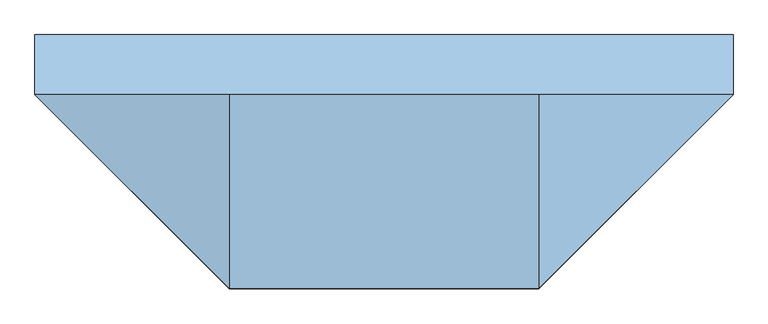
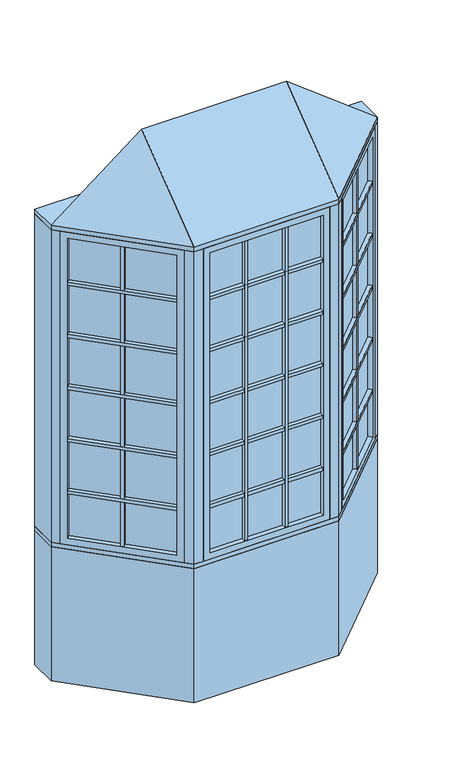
"""IFC4 building model written with IfcOpenShell, lengths in millimetres: window geometry, Pollard_Windows_Tudor Casement Bows and Bays : AML-BAY 45 AFR0518-08-600_GC."""

import ifcopenshell
import ifcopenshell.guid

model = None  # the IFC model being written
_history = None  # IfcOwnerHistory: only IFC2X3 demands one
_inside = {}  # id of a spatial element -> (the spatial element, [elements in it])
_under = {}  # id of a project, library or spatial element -> (it, [spatial elements below it])
_declared = {}  # id of a project -> (the project, [libraries it declares])
_typed = {}  # id of a type object -> (the type object, [elements of that type])
_made_of = {}  # id of a material, layer set ... -> (it, [elements and type objects made of it])


def new_model(schema):
    """Start an empty IFC model of exactly this schema.

    Asked for "IFC4X3", IfcOpenShell would pick the latest addendum, in which some entities
    have other attributes; the version numbers below select the first issue.
    IFC2X3 requires an IfcOwnerHistory on every rooted entity: one is made here for all.
    """
    global model, _history
    if schema == "IFC4X3":
        model = ifcopenshell.file(schema_version=(4, 3, 0, 0))
    else:
        model = ifcopenshell.file(schema=schema)
    _inside.clear()
    _under.clear()
    _declared.clear()
    _typed.clear()
    _made_of.clear()
    _history = None
    if model.schema == "IFC2X3":
        org = make("IfcOrganization", Name="unknown")
        user = make(
            "IfcPersonAndOrganization",
            ThePerson=make("IfcPerson", FamilyName="unknown"),
            TheOrganization=org,
        )
        app = make(
            "IfcApplication",
            ApplicationDeveloper=org,
            Version="unknown",
            ApplicationFullName="unknown",
            ApplicationIdentifier="unknown",
        )
        _history = make(
            "IfcOwnerHistory",
            OwningUser=user,
            OwningApplication=app,
            ChangeAction="ADDED",
            CreationDate=0,
        )
    return model


def make(cls, **values):
    """One entity of the class cls with the attributes given. An attribute that is None is left unset."""
    return model.create_entity(
        cls, **{name: value for name, value in values.items() if value is not None}
    )


def rooted(cls, **values):
    """An entity with a GlobalId (a new one), such as an element, a storey or a relation."""
    return make(cls, GlobalId=ifcopenshell.guid.new(), OwnerHistory=_history, **values)


def si_unit(unit_type, name, prefix=None):
    """IfcSIUnit, for example si_unit("LENGTHUNIT", "METRE", prefix="MILLI")."""
    return make("IfcSIUnit", UnitType=unit_type, Prefix=prefix, Name=name)


def assignment(units):
    """IfcUnitAssignment: the units of a project."""
    return None if units is None else make("IfcUnitAssignment", Units=units)


def point(xyz):
    """IfcCartesianPoint."""
    return None if xyz is None else make("IfcCartesianPoint", Coordinates=xyz)


def direction(xyz):
    """IfcDirection."""
    return None if xyz is None else make("IfcDirection", DirectionRatios=xyz)


def frame(location, z_axis=None, x_axis=None):
    """IfcAxis2Placement3D, a coordinate frame: its origin and axes. An axis left out is left unset."""
    return make(
        "IfcAxis2Placement3D",
        Location=point(location),
        Axis=direction(z_axis),
        RefDirection=direction(x_axis),
    )


def origin():
    """The frame at (0, 0, 0) with its axes left unset."""
    return frame((0.0, 0.0, 0.0))


def origin_with_axes():
    """The frame at (0, 0, 0) with the z axis (0, 0, 1) and the x axis (1, 0, 0) written out."""
    return frame((0.0, 0.0, 0.0), z_axis=(0.0, 0.0, 1.0), x_axis=(1.0, 0.0, 0.0))


def place(relative_to, where):
    """IfcLocalPlacement: puts the frame where relative to a parent placement (None: the world)."""
    return make(
        "IfcLocalPlacement", PlacementRelTo=relative_to, RelativePlacement=where
    )


def context(
    kind, dimensions, precision=None, world=None, true_north=None, identifier=None
):
    """IfcGeometricRepresentationContext, for example the 3D "Model" context."""
    return make(
        "IfcGeometricRepresentationContext",
        ContextIdentifier=identifier,
        ContextType=kind,
        CoordinateSpaceDimension=dimensions,
        Precision=precision,
        WorldCoordinateSystem=world,
        TrueNorth=true_north,
    )


def project(units=None, contexts=None):
    """IfcProject with its units and contexts."""
    return rooted(
        "IfcProject",
        Name="project",
        RepresentationContexts=contexts,
        UnitsInContext=assignment(units),
    )


def spatial(cls, under=None, at=None, **own):
    """A site, building, storey or space (cls), placed at a placement, below another one or the project."""
    s = rooted(cls, ObjectPlacement=at, **own)
    if under is not None:
        _under.setdefault(under.id(), (under, []))[1].append(s)
    return s


def polyline(points):
    """IfcPolyline through the points."""
    return make("IfcPolyline", Points=[point(p) for p in points])


def outline(outer, holes=None, kind="AREA"):
    """IfcArbitraryClosedProfileDef: a profile drawn as a closed curve; with holes, ...WithVoids."""
    if holes is None:
        return make("IfcArbitraryClosedProfileDef", ProfileType=kind, OuterCurve=outer)
    return make(
        "IfcArbitraryProfileDefWithVoids",
        ProfileType=kind,
        OuterCurve=outer,
        InnerCurves=holes,
    )


def extrude(swept, where, along, depth):
    """IfcExtrudedAreaSolid: the profile swept, set in the frame where, extruded along a direction by depth."""
    return make(
        "IfcExtrudedAreaSolid",
        SweptArea=swept,
        Position=where,
        ExtrudedDirection=direction(along),
        Depth=depth,
    )


def faces_of(points, faces, orient=None, outer=None):
    """IfcFace entities. A face is a list of loops; a loop is a list of indices into points, from 0.

    orient and outer hold one flag for each loop. By default every Orientation is true, the
    first loop of a face is its IfcFaceOuterBound and the others are IfcFaceBound.
    """
    made = []
    for i, loops in enumerate(faces):
        bounds = []
        for j, loop in enumerate(loops):
            is_outer = j == 0 if outer is None else outer[i][j]
            bounds.append(
                make(
                    "IfcFaceOuterBound" if is_outer else "IfcFaceBound",
                    Bound=make("IfcPolyLoop", Polygon=[points[k] for k in loop]),
                    Orientation=True if orient is None else orient[i][j],
                )
            )
        made.append(make("IfcFace", Bounds=bounds))
    return made


def faceted_brep(points, faces, orient=None, outer=None, voids=None):
    """IfcFacetedBrep: a solid bounded by flat faces; with voids (closed shells), ...WithVoids."""
    shared = [point(p) for p in points]
    hull = make("IfcClosedShell", CfsFaces=faces_of(shared, faces, orient, outer))
    if voids is None:
        return make("IfcFacetedBrep", Outer=hull)
    return make(
        "IfcFacetedBrepWithVoids",
        Outer=hull,
        Voids=[
            make(cls, CfsFaces=faces_of(shared, fs, o, b)) for cls, fs, o, b in voids
        ],
    )


def shape(context_of_items, identifier, shape_type, items):
    """IfcShapeRepresentation: the items that make up one representation, for example the "Body"."""
    return make(
        "IfcShapeRepresentation",
        ContextOfItems=context_of_items,
        RepresentationIdentifier=identifier,
        RepresentationType=shape_type,
        Items=items,
    )


def source(mapping_origin, context_of_items, identifier, shape_type, items):
    """IfcRepresentationMap: a shape defined once, which mapped items show again and again."""
    return make(
        "IfcRepresentationMap",
        MappingOrigin=mapping_origin,
        MappedRepresentation=shape(context_of_items, identifier, shape_type, items),
    )


def transform(
    local_origin,
    x_axis=None,
    y_axis=None,
    z_axis=None,
    scale=None,
    scale2=None,
    scale3=None,
    uniform=True,
):
    """IfcCartesianTransformationOperator3D, or its non-uniform kind. x_axis, y_axis, z_axis: its Axis1, 2, 3."""
    if uniform:
        return make(
            "IfcCartesianTransformationOperator3D",
            Axis1=direction(x_axis),
            Axis2=direction(y_axis),
            LocalOrigin=point(local_origin),
            Scale=scale,
            Axis3=direction(z_axis),
        )
    return make(
        "IfcCartesianTransformationOperator3DnonUniform",
        Axis1=direction(x_axis),
        Axis2=direction(y_axis),
        LocalOrigin=point(local_origin),
        Scale=scale,
        Axis3=direction(z_axis),
        Scale2=scale2,
        Scale3=scale3,
    )


def mapped(mapping_source, mapping_target):
    """IfcMappedItem: shows the shape of a source again, moved by a transform."""
    return make(
        "IfcMappedItem", MappingSource=mapping_source, MappingTarget=mapping_target
    )


def made_of(thing, what):
    """Note that an element or type object is made of a material, layer set ...; save() writes the relation."""
    if what is not None:
        _made_of.setdefault(what.id(), (what, []))[1].append(thing)
    return thing


def element(
    cls,
    number,
    at=None,
    inside=None,
    cuts=None,
    type_object=None,
    material=None,
    context=None,
    identifier="Body",
    shape_type=None,
    held_by="IfcProductDefinitionShape",
    body=None,
    shapes=None,
    **own,
):
    """One element of the class cls, such as IfcWall. Its Tag is "e" and its number.

    at: its placement. inside: the storey or other place that contains it. cuts: it is an
    opening in that element (IfcRelVoidsElement). A single representation is given by context,
    identifier, shape_type and body (its items); several are given by shapes. held_by: the class
    of the entity that holds the representations. save() writes the other relations.
    """
    e = rooted(cls, Tag="e%d" % number, ObjectPlacement=at, **own)
    if body is not None:
        shapes = [shape(context, identifier, shape_type, body)]
    if shapes is not None:
        e.Representation = make(held_by, Representations=shapes)
    if inside is not None:
        _inside.setdefault(inside.id(), (inside, []))[1].append(e)
    if cuts is not None:
        rooted(
            "IfcRelVoidsElement", RelatingBuildingElement=cuts, RelatedOpeningElement=e
        )
    if type_object is not None:
        _typed.setdefault(type_object.id(), (type_object, []))[1].append(e)
    return made_of(e, material)


def aggregate(whole, parts):
    """IfcRelAggregates: a whole, such as a stair, and the parts it consists of."""
    return rooted("IfcRelAggregates", RelatingObject=whole, RelatedObjects=parts)


def save(model, path):
    """Write the relations noted so far, then the file.

    IfcRelAggregates (storeys below a building ...), IfcRelContainedInSpatialStructure (elements
    in a storey), IfcRelDefinesByType, IfcRelAssociatesMaterial and IfcRelDeclares: one each for
    every whole, place, type object, material and project.
    """
    for whole, parts in _under.values():
        aggregate(whole, parts)
    for where, things in _inside.values():
        rooted(
            "IfcRelContainedInSpatialStructure",
            RelatedElements=things,
            RelatingStructure=where,
        )
    for kind, things in _typed.values():
        rooted("IfcRelDefinesByType", RelatedObjects=things, RelatingType=kind)
    for what, things in _made_of.values():
        rooted("IfcRelAssociatesMaterial", RelatedObjects=things, RelatingMaterial=what)
    for by, libraries in _declared.values():
        rooted("IfcRelDeclares", RelatingContext=by, RelatedDefinitions=libraries)
    model.write(path)


def window_82c581ba(model_context):
    return source(origin(), model_context, "Body", "SolidModel", [
        extrude(outline(polyline([(453.0114193, -506.9608753), (437.4550701, -491.4045261), (815.116171, -113.7434252), (830.6725202, -129.2997743), (453.0114193, -506.9608753)])), frame((0.0, 0.0, 1690.998), z_axis=(0.0, 0.0, 1.0), x_axis=(1.0, 0.0, 0.0)), (0.0, 0.0, 1.0), 18.0),
        extrude(outline(polyline([(433.8629677, -487.8124236), (418.3066185, -472.2560744), (795.9677194, -94.5949735), (811.5240686, -110.1513227), (433.8629677, -487.8124236)])), frame((0.0, 0.0, 1690.998), z_axis=(0.0, 0.0, 1.0), x_axis=(1.0, 0.0, 0.0)), (0.0, 0.0, 1.0), 18.0),
        extrude(outline(polyline([(453.0114193, -506.9608753), (437.4550701, -491.4045261), (815.116171, -113.7434252), (830.6725202, -129.2997743), (453.0114193, -506.9608753)])), frame((0.0, 0.0, 1090.998), z_axis=(0.0, 0.0, 1.0), x_axis=(1.0, 0.0, 0.0)), (0.0, 0.0, 1.0), 18.0),
        extrude(outline(polyline([(433.8629677, -487.8124236), (418.3066185, -472.2560744), (795.9677194, -94.5949735), (811.5240686, -110.1513227), (433.8629677, -487.8124236)])), frame((0.0, 0.0, 1090.998), z_axis=(0.0, 0.0, 1.0), x_axis=(1.0, 0.0, 0.0)), (0.0, 0.0, 1.0), 18.0),
        extrude(outline(polyline([(453.0114193, -506.9608753), (437.4550701, -491.4045261), (815.116171, -113.7434252), (830.6725202, -129.2997743), (453.0114193, -506.9608753)])), frame((0.0, 0.0, 1390.998), z_axis=(0.0, 0.0, 1.0), x_axis=(1.0, 0.0, 0.0)), (0.0, 0.0, 1.0), 18.0),
        extrude(outline(polyline([(433.8629677, -487.8124236), (418.3066185, -472.2560744), (795.9677194, -94.5949735), (811.5240686, -110.1513227), (433.8629677, -487.8124236)])), frame((0.0, 0.0, 1390.998), z_axis=(0.0, 0.0, 1.0), x_axis=(1.0, 0.0, 0.0)), (0.0, 0.0, 1.0), 18.0),
        extrude(outline(polyline([(453.0114193, -506.9608753), (437.4550701, -491.4045261), (815.116171, -113.7434252), (830.6725202, -129.2997743), (453.0114193, -506.9608753)])), frame((0.0, 0.0, 1990.998), z_axis=(0.0, 0.0, 1.0), x_axis=(1.0, 0.0, 0.0)), (0.0, 0.0, 1.0), 18.0),
        extrude(outline(polyline([(433.8629677, -487.8124236), (418.3066185, -472.2560744), (795.9677194, -94.5949735), (811.5240686, -110.1513227), (433.8629677, -487.8124236)])), frame((0.0, 0.0, 1990.998), z_axis=(0.0, 0.0, 1.0), x_axis=(1.0, 0.0, 0.0)), (0.0, 0.0, 1.0), 18.0),
        extrude(outline(polyline([(453.0114193, -506.9608753), (437.4550701, -491.4045261), (815.116171, -113.7434252), (830.6725202, -129.2997743), (453.0114193, -506.9608753)])), frame((0.0, 0.0, 2290.998), z_axis=(0.0, 0.0, 1.0), x_axis=(1.0, 0.0, 0.0)), (0.0, 0.0, 1.0), 18.0),
        extrude(outline(polyline([(433.8629677, -487.8124236), (418.3066185, -472.2560744), (795.9677194, -94.5949735), (811.5240686, -110.1513227), (433.8629677, -487.8124236)])), frame((0.0, 0.0, 2290.998), z_axis=(0.0, 0.0, 1.0), x_axis=(1.0, 0.0, 0.0)), (0.0, 0.0, 1.0), 18.0),
        extrude(outline(polyline([(632.6495816, -296.2100146), (648.2059308, -311.7663638), (635.4780087, -324.4942858), (619.9216595, -308.9379366), (632.6495816, -296.2100146)])), frame((0.0, 0.0, 835.8628), z_axis=(0.0, 0.0, 1.0), x_axis=(1.0, 0.0, 0.0)), (0.0, 0.0, 1.0), 1728.2704),
        extrude(outline(polyline([(629.0574791, -292.6179121), (616.3295571, -305.3458342), (600.7732079, -289.789485), (613.50113, -277.0615629), (629.0574791, -292.6179121)])), frame((0.0, 0.0, 835.8628), z_axis=(0.0, 0.0, 1.0), x_axis=(1.0, 0.0, 0.0)), (0.0, 0.0, 1.0), 1728.2704),
        extrude(outline(polyline([(824.0964271, -104.763169), (428.474814, -500.3847822), (424.8827115, -496.7926797), (820.5043247, -101.1710666), (824.0964271, -104.763169)])), frame((0.0, 0.0, 823.1628), z_axis=(0.0, 0.0, 1.0), x_axis=(1.0, 0.0, 0.0)), (0.0, 0.0, 1.0), 1753.6704),
        faceted_brep([(815.116171, -113.7434252, 835.8628), (833.0766833, -131.7039374, 835.8628), (833.0766833, -131.7039374, 2564.1332), (815.116171, -113.7434252, 2564.1332), (820.5043247, -101.1710666, 823.1628), (824.0964271, -104.763169, 823.1628), (824.0964271, -104.763169, 2576.8332), (820.5043247, -101.1710666, 2576.8332), (793.5635563, -92.1908105, 835.8628), (811.5240686, -110.1513227, 835.8628), (811.5240686, -110.1513227, 2564.1332), (793.5635563, -92.1908105, 2564.1332), (858.4369265, -106.3436941, 799.998), (818.9237996, -66.8305672, 799.998), (818.9237996, -66.8305672, 2599.998), (858.4369265, -106.3436941, 2599.998), (455.4155823, -509.3650383, 2564.1332), (437.4550701, -491.4045261, 2564.1332), (428.474814, -500.3847822, 2576.8332), (424.8827115, -496.7926797, 2576.8332), (433.8629677, -487.8124236, 2564.1332), (415.9024554, -469.8519114, 2564.1332), (390.5422121, -495.2121547, 2599.998), (430.0553391, -534.7252816, 2599.998), (455.4155823, -509.3650383, 835.8628), (437.4550701, -491.4045261, 835.8628), (428.474814, -500.3847822, 823.1628), (424.8827115, -496.7926797, 823.1628), (433.8629677, -487.8124236, 835.8628), (415.9024554, -469.8519114, 835.8628), (390.5422121, -495.2121547, 799.998), (430.0553391, -534.7252816, 799.998)], [[[0, 1, 2, 3]], [[4, 5, 6, 7]], [[8, 9, 10, 11]], [[12, 13, 14, 15]], [[3, 2, 16, 17]], [[7, 6, 18, 19]], [[11, 10, 20, 21]], [[15, 14, 22, 23]], [[17, 16, 24, 25]], [[19, 18, 26, 27]], [[21, 20, 28, 29]], [[23, 22, 30, 31]], [[25, 24, 1, 0]], [[5, 26, 18, 6], [3, 17, 25, 0]], [[27, 26, 5, 4]], [[7, 19, 27, 4], [9, 28, 20, 10]], [[29, 28, 9, 8]], [[13, 30, 22, 14], [11, 21, 29, 8]], [[31, 30, 13, 12]], [[15, 23, 31, 12], [1, 24, 16, 2]]]),
        extrude(outline(polyline([(119.1785333, -544.6806207), (119.1785333, -566.6806207), (101.1785333, -566.6806207), (101.1785333, -544.6806207), (119.1785333, -544.6806207)])), frame((0.0, 0.0, 835.8628), z_axis=(0.0, 0.0, 1.0), x_axis=(1.0, 0.0, 0.0)), (0.0, 0.0, 1.0), 1728.2704),
        extrude(outline(polyline([(119.1785333, -539.6006207), (101.1785333, -539.6006207), (101.1785333, -517.6006207), (119.1785333, -517.6006207), (119.1785333, -539.6006207)])), frame((0.0, 0.0, 835.8628), z_axis=(0.0, 0.0, 1.0), x_axis=(1.0, 0.0, 0.0)), (0.0, 0.0, 1.0), 1728.2704),
        extrude(outline(polyline([(-101.1785333, -544.6806207), (-101.1785333, -566.6806207), (-119.1785333, -566.6806207), (-119.1785333, -544.6806207), (-101.1785333, -544.6806207)])), frame((0.0, 0.0, 835.8628), z_axis=(0.0, 0.0, 1.0), x_axis=(1.0, 0.0, 0.0)), (0.0, 0.0, 1.0), 1728.2704),
        extrude(outline(polyline([(-101.1785333, -539.6006207), (-119.1785333, -539.6006207), (-119.1785333, -517.6006207), (-101.1785333, -517.6006207), (-101.1785333, -539.6006207)])), frame((0.0, 0.0, 835.8628), z_axis=(0.0, 0.0, 1.0), x_axis=(1.0, 0.0, 0.0)), (0.0, 0.0, 1.0), 1728.2704),
        extrude(outline(polyline([(-308.8352, -566.6806207), (-308.8352, -544.6806207), (308.8352, -544.6806207), (308.8352, -566.6806207), (-308.8352, -566.6806207)])), frame((0.0, 0.0, 1090.998), z_axis=(0.0, 0.0, 1.0), x_axis=(1.0, 0.0, 0.0)), (0.0, 0.0, 1.0), 18.0),
        extrude(outline(polyline([(-308.8352, -539.6006207), (-308.8352, -517.6006207), (308.8352, -517.6006207), (308.8352, -539.6006207), (-308.8352, -539.6006207)])), frame((0.0, 0.0, 1090.998), z_axis=(0.0, 0.0, 1.0), x_axis=(1.0, 0.0, 0.0)), (0.0, 0.0, 1.0), 18.0),
        extrude(outline(polyline([(-308.8352, -566.6806207), (-308.8352, -544.6806207), (308.8352, -544.6806207), (308.8352, -566.6806207), (-308.8352, -566.6806207)])), frame((0.0, 0.0, 1390.998), z_axis=(0.0, 0.0, 1.0), x_axis=(1.0, 0.0, 0.0)), (0.0, 0.0, 1.0), 18.0),
        extrude(outline(polyline([(-308.8352, -539.6006207), (-308.8352, -517.6006207), (308.8352, -517.6006207), (308.8352, -539.6006207), (-308.8352, -539.6006207)])), frame((0.0, 0.0, 1390.998), z_axis=(0.0, 0.0, 1.0), x_axis=(1.0, 0.0, 0.0)), (0.0, 0.0, 1.0), 18.0),
        extrude(outline(polyline([(-308.8352, -566.6806207), (-308.8352, -544.6806207), (308.8352, -544.6806207), (308.8352, -566.6806207), (-308.8352, -566.6806207)])), frame((0.0, 0.0, 1690.998), z_axis=(0.0, 0.0, 1.0), x_axis=(1.0, 0.0, 0.0)), (0.0, 0.0, 1.0), 18.0),
        extrude(outline(polyline([(-308.8352, -539.6006207), (-308.8352, -517.6006207), (308.8352, -517.6006207), (308.8352, -539.6006207), (-308.8352, -539.6006207)])), frame((0.0, 0.0, 1690.998), z_axis=(0.0, 0.0, 1.0), x_axis=(1.0, 0.0, 0.0)), (0.0, 0.0, 1.0), 18.0),
        extrude(outline(polyline([(-308.8352, -566.6806207), (-308.8352, -544.6806207), (308.8352, -544.6806207), (308.8352, -566.6806207), (-308.8352, -566.6806207)])), frame((0.0, 0.0, 1990.998), z_axis=(0.0, 0.0, 1.0), x_axis=(1.0, 0.0, 0.0)), (0.0, 0.0, 1.0), 18.0),
        extrude(outline(polyline([(-308.8352, -539.6006207), (-308.8352, -517.6006207), (308.8352, -517.6006207), (308.8352, -539.6006207), (-308.8352, -539.6006207)])), frame((0.0, 0.0, 1990.998), z_axis=(0.0, 0.0, 1.0), x_axis=(1.0, 0.0, 0.0)), (0.0, 0.0, 1.0), 18.0),
        extrude(outline(polyline([(-830.6725202, -129.2997743), (-815.116171, -113.7434252), (-437.4550701, -491.4045261), (-453.0114193, -506.9608753), (-830.6725202, -129.2997743)])), frame((0.0, 0.0, 1090.998), z_axis=(0.0, 0.0, 1.0), x_axis=(1.0, 0.0, 0.0)), (0.0, 0.0, 1.0), 18.0),
        extrude(outline(polyline([(-811.5240686, -110.1513227), (-795.9677194, -94.5949735), (-418.3066185, -472.2560744), (-433.8629677, -487.8124236), (-811.5240686, -110.1513227)])), frame((0.0, 0.0, 1090.998), z_axis=(0.0, 0.0, 1.0), x_axis=(1.0, 0.0, 0.0)), (0.0, 0.0, 1.0), 18.0),
        extrude(outline(polyline([(-830.6725202, -129.2997743), (-815.116171, -113.7434252), (-437.4550701, -491.4045261), (-453.0114193, -506.9608753), (-830.6725202, -129.2997743)])), frame((0.0, 0.0, 1390.998), z_axis=(0.0, 0.0, 1.0), x_axis=(1.0, 0.0, 0.0)), (0.0, 0.0, 1.0), 18.0),
        extrude(outline(polyline([(-811.5240686, -110.1513227), (-795.9677194, -94.5949735), (-418.3066185, -472.2560744), (-433.8629677, -487.8124236), (-811.5240686, -110.1513227)])), frame((0.0, 0.0, 1390.998), z_axis=(0.0, 0.0, 1.0), x_axis=(1.0, 0.0, 0.0)), (0.0, 0.0, 1.0), 18.0),
        extrude(outline(polyline([(-830.6725202, -129.2997743), (-815.116171, -113.7434252), (-437.4550701, -491.4045261), (-453.0114193, -506.9608753), (-830.6725202, -129.2997743)])), frame((0.0, 0.0, 1690.998), z_axis=(0.0, 0.0, 1.0), x_axis=(1.0, 0.0, 0.0)), (0.0, 0.0, 1.0), 18.0),
        extrude(outline(polyline([(-811.5240686, -110.1513227), (-795.9677194, -94.5949735), (-418.3066185, -472.2560744), (-433.8629677, -487.8124236), (-811.5240686, -110.1513227)])), frame((0.0, 0.0, 1690.998), z_axis=(0.0, 0.0, 1.0), x_axis=(1.0, 0.0, 0.0)), (0.0, 0.0, 1.0), 18.0),
        extrude(outline(polyline([(-830.6725202, -129.2997743), (-815.116171, -113.7434252), (-437.4550701, -491.4045261), (-453.0114193, -506.9608753), (-830.6725202, -129.2997743)])), frame((0.0, 0.0, 1990.998), z_axis=(0.0, 0.0, 1.0), x_axis=(1.0, 0.0, 0.0)), (0.0, 0.0, 1.0), 18.0),
        extrude(outline(polyline([(-811.5240686, -110.1513227), (-795.9677194, -94.5949735), (-418.3066185, -472.2560744), (-433.8629677, -487.8124236), (-811.5240686, -110.1513227)])), frame((0.0, 0.0, 1990.998), z_axis=(0.0, 0.0, 1.0), x_axis=(1.0, 0.0, 0.0)), (0.0, 0.0, 1.0), 18.0),
        extrude(outline(polyline([(-830.6725202, -129.2997743), (-815.116171, -113.7434252), (-437.4550701, -491.4045261), (-453.0114193, -506.9608753), (-830.6725202, -129.2997743)])), frame((0.0, 0.0, 2290.998), z_axis=(0.0, 0.0, 1.0), x_axis=(1.0, 0.0, 0.0)), (0.0, 0.0, 1.0), 18.0),
        extrude(outline(polyline([(-811.5240686, -110.1513227), (-795.9677194, -94.5949735), (-418.3066185, -472.2560744), (-433.8629677, -487.8124236), (-811.5240686, -110.1513227)])), frame((0.0, 0.0, 2290.998), z_axis=(0.0, 0.0, 1.0), x_axis=(1.0, 0.0, 0.0)), (0.0, 0.0, 1.0), 18.0),
        extrude(outline(polyline([(-308.8352, -566.6806207), (-308.8352, -544.6806207), (308.8352, -544.6806207), (308.8352, -566.6806207), (-308.8352, -566.6806207)])), frame((0.0, 0.0, 2290.998), z_axis=(0.0, 0.0, 1.0), x_axis=(1.0, 0.0, 0.0)), (0.0, 0.0, 1.0), 18.0),
        extrude(outline(polyline([(-308.8352, -539.6006207), (-308.8352, -517.6006207), (308.8352, -517.6006207), (308.8352, -539.6006207), (-308.8352, -539.6006207)])), frame((0.0, 0.0, 2290.998), z_axis=(0.0, 0.0, 1.0), x_axis=(1.0, 0.0, 0.0)), (0.0, 0.0, 1.0), 18.0),
        extrude(outline(polyline([(-619.9216595, -308.9379366), (-635.4780087, -324.4942858), (-648.2059308, -311.7663638), (-632.6495816, -296.2100146), (-619.9216595, -308.9379366)])), frame((0.0, 0.0, 835.8628), z_axis=(0.0, 0.0, 1.0), x_axis=(1.0, 0.0, 0.0)), (0.0, 0.0, 1.0), 1728.2704),
        extrude(outline(polyline([(-616.3295571, -305.3458342), (-629.0574791, -292.6179121), (-613.50113, -277.0615629), (-600.7732079, -289.789485), (-616.3295571, -305.3458342)])), frame((0.0, 0.0, 835.8628), z_axis=(0.0, 0.0, 1.0), x_axis=(1.0, 0.0, 0.0)), (0.0, 0.0, 1.0), 1728.2704),
        extrude(outline(polyline([(-428.474814, -500.3847822), (-824.0964271, -104.763169), (-820.5043247, -101.1710666), (-424.8827115, -496.7926797), (-428.474814, -500.3847822)])), frame((0.0, 0.0, 823.1628), z_axis=(0.0, 0.0, 1.0), x_axis=(1.0, 0.0, 0.0)), (0.0, 0.0, 1.0), 1753.6704),
        faceted_brep([(-433.8629677, -487.8124236, 2564.1332), (-415.9024554, -469.8519114, 2564.1332), (-415.9024554, -469.8519114, 835.8628), (-433.8629677, -487.8124236, 835.8628), (-428.474814, -500.3847822, 2576.8332), (-424.8827115, -496.7926797, 2576.8332), (-424.8827115, -496.7926797, 823.1628), (-428.474814, -500.3847822, 823.1628), (-455.4155823, -509.3650383, 2564.1332), (-437.4550701, -491.4045261, 2564.1332), (-437.4550701, -491.4045261, 835.8628), (-455.4155823, -509.3650383, 835.8628), (-390.5422121, -495.2121547, 2599.998), (-430.0553391, -534.7252816, 2599.998), (-430.0553391, -534.7252816, 799.998), (-390.5422121, -495.2121547, 799.998), (-793.5635563, -92.1908105, 835.8628), (-811.5240686, -110.1513227, 835.8628), (-820.5043247, -101.1710666, 823.1628), (-824.0964271, -104.763169, 823.1628), (-815.116171, -113.7434252, 835.8628), (-833.0766833, -131.7039374, 835.8628), (-858.4369265, -106.3436941, 799.998), (-818.9237996, -66.8305672, 799.998), (-793.5635563, -92.1908105, 2564.1332), (-811.5240686, -110.1513227, 2564.1332), (-820.5043247, -101.1710666, 2576.8332), (-824.0964271, -104.763169, 2576.8332), (-815.116171, -113.7434252, 2564.1332), (-833.0766833, -131.7039374, 2564.1332), (-858.4369265, -106.3436941, 2599.998), (-818.9237996, -66.8305672, 2599.998)], [[[0, 1, 2, 3]], [[4, 5, 6, 7]], [[8, 9, 10, 11]], [[12, 13, 14, 15]], [[3, 2, 16, 17]], [[7, 6, 18, 19]], [[11, 10, 20, 21]], [[15, 14, 22, 23]], [[17, 16, 24, 25]], [[19, 18, 26, 27]], [[21, 20, 28, 29]], [[23, 22, 30, 31]], [[15, 23, 31, 12], [1, 24, 16, 2]], [[25, 24, 1, 0]], [[5, 26, 18, 6], [3, 17, 25, 0]], [[27, 26, 5, 4]], [[7, 19, 27, 4], [9, 28, 20, 10]], [[29, 28, 9, 8]], [[13, 30, 22, 14], [11, 21, 29, 8]], [[31, 30, 13, 12]]]),
        extrude(outline(polyline([(321.5352, -544.6806207), (-321.5352, -544.6806207), (-321.5352, -539.6006207), (321.5352, -539.6006207), (321.5352, -544.6806207)])), frame((0.0, 0.0, 823.1628), z_axis=(0.0, 0.0, 1.0), x_axis=(1.0, 0.0, 0.0)), (0.0, 0.0, 1.0), 1753.6704),
        faceted_brep([(308.8352, -544.6806207, 835.8628), (308.8352, -570.0806207, 835.8628), (308.8352, -570.0806207, 2564.1332), (308.8352, -544.6806207, 2564.1332), (321.5352, -539.6006207, 823.1628), (321.5352, -544.6806207, 823.1628), (321.5352, -544.6806207, 2576.8332), (321.5352, -539.6006207, 2576.8332), (308.8352, -514.2006207, 835.8628), (308.8352, -539.6006207, 835.8628), (308.8352, -539.6006207, 2564.1332), (308.8352, -514.2006207, 2564.1332), (344.7, -570.0806207, 799.998), (344.7, -514.2006207, 799.998), (344.7, -514.2006207, 2599.998), (344.7, -570.0806207, 2599.998), (-308.8352, -570.0806207, 2564.1332), (-308.8352, -544.6806207, 2564.1332), (-321.5352, -544.6806207, 2576.8332), (-321.5352, -539.6006207, 2576.8332), (-308.8352, -539.6006207, 2564.1332), (-308.8352, -514.2006207, 2564.1332), (-344.7, -514.2006207, 2599.998), (-344.7, -570.0806207, 2599.998), (-308.8352, -570.0806207, 835.8628), (-308.8352, -544.6806207, 835.8628), (-321.5352, -544.6806207, 823.1628), (-321.5352, -539.6006207, 823.1628), (-308.8352, -539.6006207, 835.8628), (-308.8352, -514.2006207, 835.8628), (-344.7, -514.2006207, 799.998), (-344.7, -570.0806207, 799.998)], [[[0, 1, 2, 3]], [[4, 5, 6, 7]], [[8, 9, 10, 11]], [[12, 13, 14, 15]], [[3, 2, 16, 17]], [[7, 6, 18, 19]], [[11, 10, 20, 21]], [[15, 14, 22, 23]], [[17, 16, 24, 25]], [[19, 18, 26, 27]], [[21, 20, 28, 29]], [[23, 22, 30, 31]], [[15, 23, 31, 12], [1, 24, 16, 2]], [[25, 24, 1, 0]], [[5, 26, 18, 6], [3, 17, 25, 0]], [[27, 26, 5, 4]], [[7, 19, 27, 4], [9, 28, 20, 10]], [[29, 28, 9, 8]], [[13, 30, 22, 14], [11, 21, 29, 8]], [[31, 30, 13, 12]]]),
        faceted_brep([(890.0, -74.7806207, 2625.398), (394.7, -570.0806207, 2625.398), (-394.7, -570.0806207, 2625.398), (-890.0, -74.7806207, 2625.398), (-394.7, -74.7806207, 3006.398), (394.7, -74.7806207, 3006.398)], [[[0, 1, 2, 3]], [[3, 2, 4]], [[2, 1, 5, 4]], [[1, 0, 5]], [[0, 3, 4, 5]]]),
        extrude(outline(polyline([(-890.0, 77.6193793), (890.0, 77.6193793), (890.0, -74.7806207), (394.7, -570.0806207), (-394.7, -570.0806207), (-890.0, -74.7806207), (-890.0, 77.6193793)])), frame((0.0, 0.0, 2599.998), z_axis=(0.0, 0.0, 1.0), x_axis=(1.0, 0.0, 0.0)), (0.0, 0.0, 1.0), 25.4),
        extrude(outline(polyline([(-890.0, -74.7806207), (-890.0, 77.6193793), (-826.8738531, 77.6193793), (-826.8738531, -74.7806207), (-858.4369265, -106.3436941), (-890.0, -74.7806207)])), frame((0.0, 0.0, 799.998), z_axis=(0.0, 0.0, 1.0), x_axis=(1.0, 0.0, 0.0)), (0.0, 0.0, 1.0), 1800.0),
        extrude(outline(polyline([(890.0, 77.6193793), (890.0, -74.7806207), (858.4369265, -106.3436941), (826.8738531, -74.7806207), (826.8738531, 77.6193793), (890.0, 77.6193793)])), frame((0.0, 0.0, 799.998), z_axis=(0.0, 0.0, 1.0), x_axis=(1.0, 0.0, 0.0)), (0.0, 0.0, 1.0), 1800.0),
        extrude(outline(polyline([(394.7, -570.0806207), (344.7, -570.0806207), (344.7, -520.0806207), (373.9893219, -520.0806207), (394.7, -499.3699425), (430.0553391, -534.7252816), (394.7, -570.0806207)])), frame((0.0, 0.0, 799.998), z_axis=(0.0, 0.0, 1.0), x_axis=(1.0, 0.0, 0.0)), (0.0, 0.0, 1.0), 1800.0),
        extrude(outline(polyline([(-394.7, -570.0806207), (-430.0553391, -534.7252816), (-394.7, -499.3699425), (-373.9893219, -520.0806207), (-344.7, -520.0806207), (-344.7, -570.0806207), (-394.7, -570.0806207)])), frame((0.0, 0.0, 799.998), z_axis=(0.0, 0.0, 1.0), x_axis=(1.0, 0.0, 0.0)), (0.0, 0.0, 1.0), 1800.0),
        extrude(outline(polyline([(-394.7, -570.0806207), (-890.0, -74.7806207), (-890.0, 77.6193793), (-826.8738531, 77.6193793), (-331.5738531, -417.6806207), (331.5738531, -417.6806207), (826.8738531, 77.6193793), (890.0, 77.6193793), (890.0, -74.7806207), (394.7, -570.0806207), (-394.7, -570.0806207)])), frame((0.0, 0.0, 774.598), z_axis=(0.0, 0.0, 1.0), x_axis=(1.0, 0.0, 0.0)), (0.0, 0.0, 1.0), 25.4),
        extrude(outline(polyline([(-890.0, -74.7806207), (-890.0, 77.6193793), (-826.8738531, 77.6193793), (-331.5738531, -417.6806207), (331.5738531, -417.6806207), (826.8738531, 77.6193793), (890.0, 77.6193793), (890.0, -74.7806207), (394.7, -570.0806207), (-394.7, -570.0806207), (-890.0, -74.7806207)])), origin_with_axes(), (0.0, 0.0, 1.0), 774.598),
    ])


if __name__ == "__main__":
    model = new_model("IFC4")
    model_context = context("Model", 3, world=origin())
    ifc_project = project(units=[si_unit("LENGTHUNIT", "METRE", prefix="MILLI")], contexts=[model_context])
    site = spatial("IfcSite", under=ifc_project)
    building = spatial("IfcBuilding", under=site)
    placement = place(None, origin())
    window_shape = window_82c581ba(model_context)
    element("IfcWindow", 1, ObjectType="Pollard_Windows_Tudor Casement Bows and Bays : AML-BAY 45 AFR0518-08-600_GC", at=placement, inside=building, context=model_context, shape_type="MappedRepresentation", body=[
        mapped(window_shape, transform((0.0, 0.0, 0.0), x_axis=(1.0, 0.0, 0.0), y_axis=(0.0, 1.0, 0.0), z_axis=(0.0, 0.0, 1.0))),
    ])
    save(model, "model.ifc")
